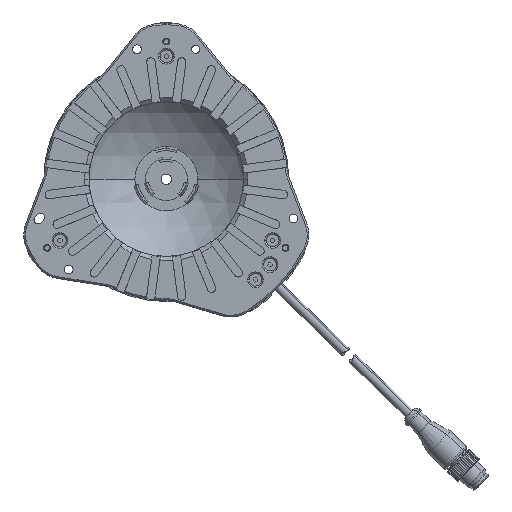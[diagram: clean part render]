
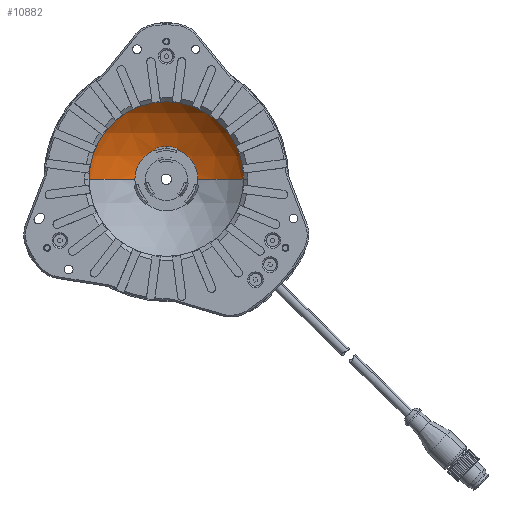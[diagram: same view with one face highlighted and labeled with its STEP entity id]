
A CAD part, top view. The second image highlights one B-rep face of the part: STEP entity #10882.
In plain terms, the highlighted spherical face has radius 52 mm.
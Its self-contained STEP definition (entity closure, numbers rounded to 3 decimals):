
#665 = EDGE_CURVE ( 'NONE', #4712, #14346, #8487, .T. ) ;
#1790 = CIRCLE ( 'NONE', #43670, 49.852 ) ;
#2531 = CARTESIAN_POINT ( 'NONE',  ( -1., 51.692, 13.059 ) ) ;
#4536 = ORIENTED_EDGE ( 'NONE', *, *, #14041, .F. ) ;
#4712 = VERTEX_POINT ( 'NONE', #22978 ) ;
#4820 = EDGE_CURVE ( 'NONE', #5333, #23544, #1790, .T. ) ;
#5333 = VERTEX_POINT ( 'NONE', #46962 ) ;
#5802 = CARTESIAN_POINT ( 'NONE',  ( 0.666, 51.671, 13.303 ) ) ;
#7411 = CARTESIAN_POINT ( 'NONE',  ( -0.1, 51.661, 13.425 ) ) ;
#7731 = DIRECTION ( 'NONE',  ( 0., 0., 1. ) ) ;
#7774 = B_SPLINE_CURVE_WITH_KNOTS ( 'NONE', 3,
 ( #31187, #29817, #26069, #36264, #5802, #41347, #10929, #46452 ),
 .UNSPECIFIED., .F., .F.,
 ( 4, 2, 2, 4 ),
 ( 0.019, 0.019, 0.019, 0.02 ),
 .UNSPECIFIED. ) ;
#8026 = CARTESIAN_POINT ( 'NONE',  ( 0., 0., 7.5 ) ) ;
#8477 = AXIS2_PLACEMENT_3D ( 'NONE', #57262, #26924, #62330 ) ;
#8487 = CIRCLE ( 'NONE', #50273, 15. ) ;
#9142 = CARTESIAN_POINT ( 'NONE',  ( 2.12, 51.948, 8.454 ) ) ;
#10882 = ADVANCED_FACE ( 'NONE', ( #43257 ), #58318, .F. ) ;
#10929 = CARTESIAN_POINT ( 'NONE',  ( 0.266, 51.661, 13.425 ) ) ;
#11934 = CARTESIAN_POINT ( 'NONE',  ( -13.897, 3.578, 11.078 ) ) ;
#12301 = CARTESIAN_POINT ( 'NONE',  ( 0.1, 51.661, 13.425 ) ) ;
#13114 = ORIENTED_EDGE ( 'NONE', *, *, #34765, .T. ) ;
#14012 = CARTESIAN_POINT ( 'NONE',  ( 0., 0., 7.5 ) ) ;
#14041 = EDGE_CURVE ( 'NONE', #42874, #34680, #7774, .T. ) ;
#14059 = DIRECTION ( 'NONE',  ( 0., -1., 0. ) ) ;
#14346 = VERTEX_POINT ( 'NONE', #43955 ) ;
#16414 = ORIENTED_EDGE ( 'NONE', *, *, #665, .F. ) ;
#16794 = DIRECTION ( 'NONE',  ( 0., 0., 1. ) ) ;
#17036 = DIRECTION ( 'NONE',  ( -0.249, 0., -0.968 ) ) ;
#19118 = ORIENTED_EDGE ( 'NONE', *, *, #4820, .F. ) ;
#19153 = DIRECTION ( 'NONE',  ( -1., 0., 0. ) ) ;
#19649 = CIRCLE ( 'NONE', #60209, 51.991 ) ;
#19795 = DIRECTION ( 'NONE',  ( 0., 0., -1. ) ) ;
#21398 = CARTESIAN_POINT ( 'NONE',  ( -51.991, 0., 8.454 ) ) ;
#21457 = CARTESIAN_POINT ( 'NONE',  ( 51.991, 0., 8.454 ) ) ;
#22939 = AXIS2_PLACEMENT_3D ( 'NONE', #38199, #7731, #43279 ) ;
#22978 = CARTESIAN_POINT ( 'NONE',  ( -15., 0., 57.29 ) ) ;
#23544 = VERTEX_POINT ( 'NONE', #60527 ) ;
#24081 = CARTESIAN_POINT ( 'NONE',  ( 13.897, 3.578, 11.078 ) ) ;
#24168 = CIRCLE ( 'NONE', #8477, 32.341 ) ;
#26069 = CARTESIAN_POINT ( 'NONE',  ( 0.879, 51.682, 13.174 ) ) ;
#26924 = DIRECTION ( 'NONE',  ( 0., 0.707, 0.707 ) ) ;
#26977 = EDGE_CURVE ( 'NONE', #44828, #58995, #56304, .T. ) ;
#27908 = CARTESIAN_POINT ( 'NONE',  ( -0.433, 51.663, 13.395 ) ) ;
#28645 = AXIS2_PLACEMENT_3D ( 'NONE', #14012, #49557, #19153 ) ;
#28749 = ORIENTED_EDGE ( 'NONE', *, *, #55987, .F. ) ;
#29197 = DIRECTION ( 'NONE',  ( -0.249, 0., 0.968 ) ) ;
#29817 = CARTESIAN_POINT ( 'NONE',  ( 0.945, 51.687, 13.121 ) ) ;
#31187 = CARTESIAN_POINT ( 'NONE',  ( 1., 51.692, 13.059 ) ) ;
#33023 = CARTESIAN_POINT ( 'NONE',  ( -0.889, 51.681, 13.184 ) ) ;
#33077 = VERTEX_POINT ( 'NONE', #7411 ) ;
#34680 = VERTEX_POINT ( 'NONE', #12301 ) ;
#34765 = EDGE_CURVE ( 'NONE', #4712, #53602, #41494, .T. ) ;
#35193 = CARTESIAN_POINT ( 'NONE',  ( 1., 51.692, 13.059 ) ) ;
#36264 = CARTESIAN_POINT ( 'NONE',  ( 0.741, 51.674, 13.265 ) ) ;
#36463 = EDGE_CURVE ( 'NONE', #34680, #33077, #24168, .T. ) ;
#38199 = CARTESIAN_POINT ( 'NONE',  ( 0., 0., 8.454 ) ) ;
#40769 = EDGE_CURVE ( 'NONE', #33077, #5333, #58474, .T. ) ;
#41347 = CARTESIAN_POINT ( 'NONE',  ( 0.433, 51.663, 13.395 ) ) ;
#41494 = CIRCLE ( 'NONE', #50548, 52. ) ;
#42874 = VERTEX_POINT ( 'NONE', #35193 ) ;
#42979 = CARTESIAN_POINT ( 'NONE',  ( -0.1, 51.661, 13.425 ) ) ;
#43257 = FACE_OUTER_BOUND ( 'NONE', #54639, .T. ) ;
#43279 = DIRECTION ( 'NONE',  ( -1., 0., 0. ) ) ;
#43360 = DIRECTION ( 'NONE',  ( 0., 1., 0. ) ) ;
#43584 = DIRECTION ( 'NONE',  ( -1., 0., 0. ) ) ;
#43670 = AXIS2_PLACEMENT_3D ( 'NONE', #11934, #47469, #17036 ) ;
#43955 = CARTESIAN_POINT ( 'NONE',  ( 15., 0., 57.29 ) ) ;
#44293 = ORIENTED_EDGE ( 'NONE', *, *, #36463, .F. ) ;
#44507 = CARTESIAN_POINT ( 'NONE',  ( 0., 0., 7.5 ) ) ;
#44828 = VERTEX_POINT ( 'NONE', #21457 ) ;
#46452 = CARTESIAN_POINT ( 'NONE',  ( 0.1, 51.661, 13.425 ) ) ;
#46780 = EDGE_CURVE ( 'NONE', #23544, #53602, #19649, .T. ) ;
#46962 = CARTESIAN_POINT ( 'NONE',  ( -1., 51.692, 13.059 ) ) ;
#47222 = CARTESIAN_POINT ( 'NONE',  ( 0., 0., 8.454 ) ) ;
#47469 = DIRECTION ( 'NONE',  ( -0.94, 0.242, 0.242 ) ) ;
#48684 = ORIENTED_EDGE ( 'NONE', *, *, #26977, .F. ) ;
#48765 = ORIENTED_EDGE ( 'NONE', *, *, #40769, .F. ) ;
#49557 = DIRECTION ( 'NONE',  ( 0., 1., 0. ) ) ;
#49606 = DIRECTION ( 'NONE',  ( 0., 0., -1. ) ) ;
#50206 = CARTESIAN_POINT ( 'NONE',  ( 0., 0., 57.29 ) ) ;
#50273 = AXIS2_PLACEMENT_3D ( 'NONE', #50206, #19795, #55295 ) ;
#50548 = AXIS2_PLACEMENT_3D ( 'NONE', #44507, #14059, #49606 ) ;
#50798 = CIRCLE ( 'NONE', #28645, 52. ) ;
#50816 = CIRCLE ( 'NONE', #62754, 49.852 ) ;
#52335 = DIRECTION ( 'NONE',  ( -1., 0., 0. ) ) ;
#53176 = CARTESIAN_POINT ( 'NONE',  ( -0.266, 51.661, 13.425 ) ) ;
#53602 = VERTEX_POINT ( 'NONE', #21398 ) ;
#54639 = EDGE_LOOP ( 'NONE', ( #28749, #16414, #13114, #55638, #19118, #48765, #44293, #4536, #57249, #48684 ) ) ;
#55295 = DIRECTION ( 'NONE',  ( -1., 0., 0. ) ) ;
#55638 = ORIENTED_EDGE ( 'NONE', *, *, #46780, .F. ) ;
#55987 = EDGE_CURVE ( 'NONE', #14346, #44828, #50798, .T. ) ;
#56304 = CIRCLE ( 'NONE', #22939, 51.991 ) ;
#56308 = AXIS2_PLACEMENT_3D ( 'NONE', #8026, #43360, #43584 ) ;
#57249 = ORIENTED_EDGE ( 'NONE', *, *, #60346, .F. ) ;
#57262 = CARTESIAN_POINT ( 'NONE',  ( 0., 28.793, 36.293 ) ) ;
#58318 = SPHERICAL_SURFACE ( 'NONE', #56308, 52. ) ;
#58474 = B_SPLINE_CURVE_WITH_KNOTS ( 'NONE', 3,
 ( #42979, #53176, #27908, #63336, #33023, #2531 ),
 .UNSPECIFIED., .F., .F.,
 ( 4, 2, 4 ),
 ( 0.019, 0.019, 0.02 ),
 .UNSPECIFIED. ) ;
#58995 = VERTEX_POINT ( 'NONE', #9142 ) ;
#59537 = DIRECTION ( 'NONE',  ( 0.94, 0.242, 0.242 ) ) ;
#60209 = AXIS2_PLACEMENT_3D ( 'NONE', #47222, #16794, #52335 ) ;
#60346 = EDGE_CURVE ( 'NONE', #58995, #42874, #50816, .T. ) ;
#60527 = CARTESIAN_POINT ( 'NONE',  ( -2.12, 51.948, 8.454 ) ) ;
#62330 = DIRECTION ( 'NONE',  ( 0., 0.707, -0.707 ) ) ;
#62754 = AXIS2_PLACEMENT_3D ( 'NONE', #24081, #59537, #29197 ) ;
#63336 = CARTESIAN_POINT ( 'NONE',  ( -0.743, 51.673, 13.273 ) ) ;
